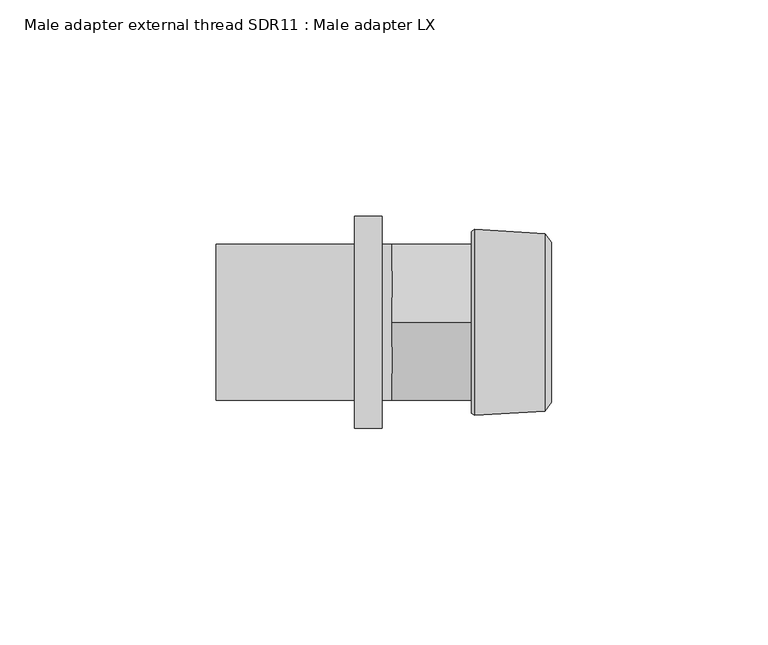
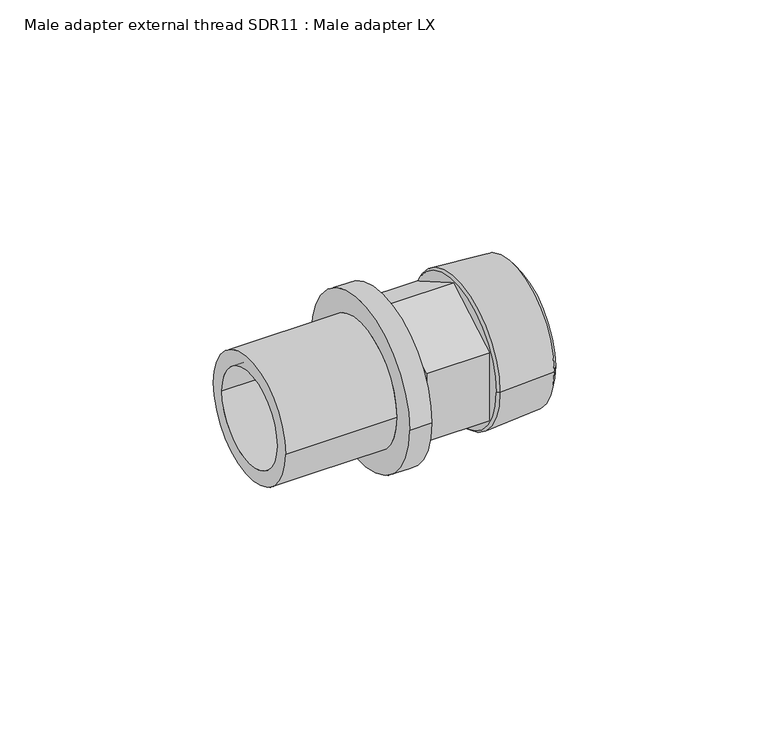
"""IFC4 building model written with IfcOpenShell, lengths in millimetres: pipe fitting geometry, Male adapter external thread SDR11 : Male adapter LX."""

from ifc_helpers import new_model, si_unit, frame, origin, place, context, project, spatial, polyline, circle_curve, outline, extrude, source, transform, mapped, element, save
from ifc_brep_helpers import plane_surface, cylinder_surface, revolved_surface, advanced_brep


def male_adapter_external_thread_sdr11_male_adapter_lx_11594ce0(model_context):
    return source(origin(), model_context, "Body", "SolidModel", [
        advanced_brep(
        [(-8.7, 18.0, 0.0), (-8.7, -18.0, 0.0), (-40.7, -18.0, 0.0), (-40.7, 18.0, 0.0), (-2.3, 24.5, 0.0), (-2.3, -24.5, 0.0), (-8.7, -24.5, 0.0), (-8.7, 24.5, 0.0), (0.0, 18.0, 0.0), (0.0, -18.0, 0.0), (-2.3, -18.0, 0.0), (-2.3, 18.0, 0.0), (-40.7, 13.75, 0.0), (-40.7, -13.75, 0.0), (0.0, -13.75, 0.0), (0.0, 13.75, 0.0)],
        [
            (0, 1, circle_curve(frame((-8.7, 0.0, 0.0), z_axis=(-1.0, 0.0, 0.0), x_axis=(0.0, -1.0, 0.0)), 18.0)),
            (1, 2),
            (2, 3, circle_curve(frame((-40.7, 0.0, 0.0), z_axis=(1.0, 0.0, 0.0), x_axis=(0.0, -1.0, 0.0)), 18.0)),
            (3, 0),
            (4, 5, circle_curve(frame((-2.3, 0.0, 0.0), z_axis=(-1.0, 0.0, 0.0), x_axis=(0.0, -1.0, 0.0)), 24.5)),
            (5, 6),
            (6, 7, circle_curve(frame((-8.7, 0.0, 0.0), z_axis=(1.0, 0.0, 0.0), x_axis=(0.0, -1.0, 0.0)), 24.5)),
            (7, 4),
            (8, 9, circle_curve(frame((0.0, 0.0, 0.0), z_axis=(-1.0, 0.0, 0.0), x_axis=(0.0, -1.0, 0.0)), 18.0)),
            (9, 10),
            (10, 11, circle_curve(frame((-2.3, 0.0, 0.0), z_axis=(1.0, 0.0, 0.0), x_axis=(0.0, -1.0, 0.0)), 18.0)),
            (11, 8),
            (12, 13, circle_curve(frame((-40.7, 0.0, 0.0), z_axis=(-1.0, 0.0, 0.0), x_axis=(0.0, -1.0, 0.0)), 13.75)),
            (13, 14),
            (14, 15, circle_curve(frame((0.0, 0.0, 0.0), z_axis=(1.0, 0.0, 0.0), x_axis=(0.0, -1.0, 0.0)), 13.75)),
            (15, 12),
            (2, 3, circle_curve(frame((-40.7, 0.0, 0.0), z_axis=(-1.0, 0.0, 0.0), x_axis=(0.0, 1.0, 0.0)), 18.0)),
            (12, 13, circle_curve(frame((-40.7, 0.0, 0.0), z_axis=(1.0, 0.0, 0.0), x_axis=(0.0, 1.0, 0.0)), 13.75)),
            (1, 0, circle_curve(frame((-8.7, 0.0, 0.0), z_axis=(-1.0, 0.0, 0.0), x_axis=(0.0, 1.0, 0.0)), 18.0)),
            (6, 7, circle_curve(frame((-8.7, 0.0, 0.0), z_axis=(-1.0, 0.0, 0.0), x_axis=(0.0, 1.0, 0.0)), 24.5)),
            (5, 4, circle_curve(frame((-2.3, 0.0, 0.0), z_axis=(-1.0, 0.0, 0.0), x_axis=(0.0, 1.0, 0.0)), 24.5)),
            (10, 11, circle_curve(frame((-2.3, 0.0, 0.0), z_axis=(-1.0, 0.0, 0.0), x_axis=(0.0, 1.0, 0.0)), 18.0)),
            (9, 8, circle_curve(frame((0.0, 0.0, 0.0), z_axis=(-1.0, 0.0, 0.0), x_axis=(0.0, 1.0, 0.0)), 18.0)),
            (14, 15, circle_curve(frame((0.0, 0.0, 0.0), z_axis=(-1.0, 0.0, 0.0), x_axis=(0.0, 1.0, 0.0)), 13.75)),
        ],
        [
            cylinder_surface(frame((0.0, 0.0, 0.0), z_axis=(1.0, 0.0, 0.0), x_axis=(0.0, -1.0, 0.0)), 18.0),
            cylinder_surface(frame((0.0, 0.0, 0.0), z_axis=(1.0, 0.0, 0.0), x_axis=(0.0, -1.0, 0.0)), 24.5),
            revolved_surface(polyline([(0.0, -13.75, 0.0), (-40.7, -13.75, 0.0)]), (0.0, 0.0, 0.0), (1.0, 0.0, 0.0)),
            plane_surface(frame((-40.7, 0.0, 0.0), z_axis=(-1.0, 0.0, 0.0), x_axis=(0.0, 1.0, 0.0))),
            cylinder_surface(frame((0.0, 0.0, 0.0), z_axis=(1.0, 0.0, 0.0), x_axis=(0.0, 1.0, 0.0)), 18.0),
            plane_surface(frame((-8.7, 0.0, 0.0), z_axis=(-1.0, 0.0, 0.0), x_axis=(0.0, 1.0, 0.0))),
            cylinder_surface(frame((0.0, 0.0, 0.0), z_axis=(1.0, 0.0, 0.0), x_axis=(0.0, 1.0, 0.0)), 24.5),
            plane_surface(frame((-2.3, 0.0, 0.0), z_axis=(1.0, 0.0, 0.0), x_axis=(0.0, 1.0, 0.0))),
            plane_surface(frame((0.0, 0.0, 0.0), z_axis=(1.0, 0.0, 0.0), x_axis=(0.0, 1.0, 0.0))),
            revolved_surface(polyline([(0.0, 13.75, 0.0), (-40.7, 13.75, 0.0)]), (0.0, 0.0, 0.0), (1.0, 0.0, 0.0)),
        ],
        [
            (0, [[1, 2, 3, 4]]),
            (1, [[5, 6, 7, 8]]),
            (0, [[9, 10, 11, 12]]),
            (2, [[13, 14, 15, 16]]),
            (3, [[17, -3], [18, -13]]),
            (4, [[19, -4, -17, -2]]),
            (5, [[20, -7], [-19, -1]]),
            (6, [[21, -8, -20, -6]]),
            (7, [[-21, -5], [22, -11]]),
            (4, [[23, -12, -22, -10]]),
            (8, [[-23, -9], [24, -15]]),
            (9, [[-18, -16, -24, -14]]),
        ],
    ),
        advanced_brep(
        [(19.4032803, 15.25, 0.0), (19.4032803, -15.25, 0.0), (36.8, -15.25, 0.0), (36.8, 15.25, 0.0), (18.3, 14.1467197, 0.0), (18.3, -14.1467197, 0.0), (19.0406902, 21.5, 0.0), (19.0406902, -21.5, 0.0), (18.3, -21.0, 0.0), (18.3, 21.0, 0.0), (35.3000007, 20.5, 0.0), (35.3000007, -20.5, 0.0), (36.8, 18.5, 0.0), (36.8, -18.5, 0.0)],
        [
            (0, 1, circle_curve(frame((19.4032803, 0.0, 0.0), z_axis=(-1.0, 0.0, 0.0), x_axis=(0.0, -1.0, 0.0)), 15.25)),
            (1, 2),
            (2, 3, circle_curve(frame((36.8, 0.0, 0.0), z_axis=(1.0, 0.0, 0.0), x_axis=(0.0, -1.0, 0.0)), 15.25)),
            (3, 0),
            (4, 5, circle_curve(frame((18.3, 0.0, 0.0), z_axis=(-1.0, 0.0, 0.0), x_axis=(0.0, -1.0, 0.0)), 14.1467197)),
            (5, 1),
            (0, 4),
            (6, 7, circle_curve(frame((19.0406902, 0.0, 0.0), z_axis=(-1.0, 0.0, 0.0), x_axis=(0.0, -1.0, 0.0)), 21.5)),
            (7, 8),
            (8, 9, circle_curve(frame((18.3, 0.0, 0.0), z_axis=(1.0, 0.0, 0.0), x_axis=(0.0, -1.0, 0.0)), 21.0)),
            (9, 6),
            (10, 11, circle_curve(frame((35.3000007, 0.0, 0.0), z_axis=(-1.0, 0.0, 0.0), x_axis=(0.0, -1.0, 0.0)), 20.5)),
            (11, 7),
            (6, 10),
            (12, 13, circle_curve(frame((36.8, 0.0, 0.0), z_axis=(-1.0, 0.0, 0.0), x_axis=(0.0, -1.0, 0.0)), 18.5)),
            (13, 11),
            (10, 12),
            (1, 0, circle_curve(frame((19.4032803, 0.0, 0.0), z_axis=(-1.0, 0.0, 0.0), x_axis=(0.0, 1.0, 0.0)), 15.25)),
            (3, 2, circle_curve(frame((36.8, 0.0, 0.0), z_axis=(1.0, 0.0, 0.0), x_axis=(0.0, 1.0, 0.0)), 15.25)),
            (5, 4, circle_curve(frame((18.3, 0.0, 0.0), z_axis=(-1.0, 0.0, 0.0), x_axis=(0.0, 1.0, 0.0)), 14.1467197)),
            (8, 9, circle_curve(frame((18.3, 0.0, 0.0), z_axis=(-1.0, 0.0, 0.0), x_axis=(0.0, 1.0, 0.0)), 21.0)),
            (7, 6, circle_curve(frame((19.0406902, 0.0, 0.0), z_axis=(-1.0, 0.0, 0.0), x_axis=(0.0, 1.0, 0.0)), 21.5)),
            (11, 10, circle_curve(frame((35.3000007, 0.0, 0.0), z_axis=(-1.0, 0.0, 0.0), x_axis=(0.0, 1.0, 0.0)), 20.5)),
            (13, 12, circle_curve(frame((36.8, 0.0, 0.0), z_axis=(-1.0, 0.0, 0.0), x_axis=(0.0, 1.0, 0.0)), 18.5)),
        ],
        [
            revolved_surface(polyline([(36.8, -15.25, 0.0), (19.4032803, -15.25, 0.0)]), (0.0, 0.0, 0.0), (1.0, 0.0, 0.0)),
            revolved_surface(polyline([(19.4032803, -15.25, 0.0), (18.3, -14.1467197, 0.0)]), (0.0, 0.0, 0.0), (1.0, 0.0, 0.0)),
            revolved_surface(polyline([(18.3, -21.0, 0.0), (19.0406902, -21.5, 0.0)]), (0.0, 0.0, 0.0), (1.0, 0.0, 0.0)),
            revolved_surface(polyline([(19.0406902, -21.5, 0.0), (35.3000007, -20.5, 0.0)]), (0.0, 0.0, 0.0), (1.0, 0.0, 0.0)),
            revolved_surface(polyline([(35.3000007, -20.5, 0.0), (36.8, -18.5, 0.0)]), (0.0, 0.0, 0.0), (1.0, 0.0, 0.0)),
            revolved_surface(polyline([(36.8, 15.25, 0.0), (19.4032803, 15.25, 0.0)]), (0.0, 0.0, 0.0), (1.0, 0.0, 0.0)),
            revolved_surface(polyline([(19.4032803, 15.25, 0.0), (18.3, 14.1467197, 0.0)]), (0.0, 0.0, 0.0), (1.0, 0.0, 0.0)),
            plane_surface(frame((18.3, 0.0, 0.0), z_axis=(-1.0, 0.0, 0.0), x_axis=(0.0, 1.0, 0.0))),
            revolved_surface(polyline([(18.3, 21.0, 0.0), (19.0406902, 21.5, 0.0)]), (0.0, 0.0, 0.0), (1.0, 0.0, 0.0)),
            revolved_surface(polyline([(19.0406902, 21.5, 0.0), (35.3000007, 20.5, 0.0)]), (0.0, 0.0, 0.0), (1.0, 0.0, 0.0)),
            revolved_surface(polyline([(35.3000007, 20.5, 0.0), (36.8, 18.5, 0.0)]), (0.0, 0.0, 0.0), (1.0, 0.0, 0.0)),
            plane_surface(frame((36.8, 0.0, 0.0), z_axis=(1.0, 0.0, 0.0), x_axis=(0.0, 1.0, 0.0))),
        ],
        [
            (0, [[1, 2, 3, 4]]),
            (1, [[5, 6, -1, 7]]),
            (2, [[8, 9, 10, 11]]),
            (3, [[12, 13, -8, 14]]),
            (4, [[15, 16, -12, 17]]),
            (5, [[18, -4, 19, -2]]),
            (6, [[20, -7, -18, -6]]),
            (7, [[21, -10], [-20, -5]]),
            (8, [[22, -11, -21, -9]]),
            (9, [[23, -14, -22, -13]]),
            (10, [[24, -17, -23, -16]]),
            (11, [[-24, -15], [-19, -3]]),
        ],
    ),
        extrude(outline(polyline([(-18.0, 10.3923048), (0.0, 20.7846097), (18.0, 10.3923048), (18.0, -10.3923048), (0.0, -20.7846097), (-18.0, -10.3923048), (-18.0, 10.3923048)])), frame((0.0, 0.0, 0.0), z_axis=(1.0, 0.0, 0.0), x_axis=(0.0, 1.0, 0.0)), (0.0, 0.0, 1.0), 18.3),
    ])


if __name__ == "__main__":
    model = new_model("IFC4")
    model_context = context("Model", 3, world=origin())
    ifc_project = project(units=[si_unit("LENGTHUNIT", "METRE", prefix="MILLI")], contexts=[model_context])
    site = spatial("IfcSite", under=ifc_project)
    building = spatial("IfcBuilding", under=site)
    placement = place(None, origin())
    male_adapter_external_thread_sdr11_male_adapter_lx_shape = male_adapter_external_thread_sdr11_male_adapter_lx_11594ce0(model_context)
    element("IfcPipeFitting", 1, ObjectType="Male adapter external thread SDR11 : Male adapter LX", at=placement, inside=building, context=model_context, shape_type="MappedRepresentation", body=[
        mapped(male_adapter_external_thread_sdr11_male_adapter_lx_shape, transform((0.0, 0.0, 0.0), x_axis=(1.0, 0.0, 0.0), y_axis=(0.0, 1.0, 0.0), z_axis=(0.0, 0.0, 1.0))),
    ])
    save(model, "model.ifc")
